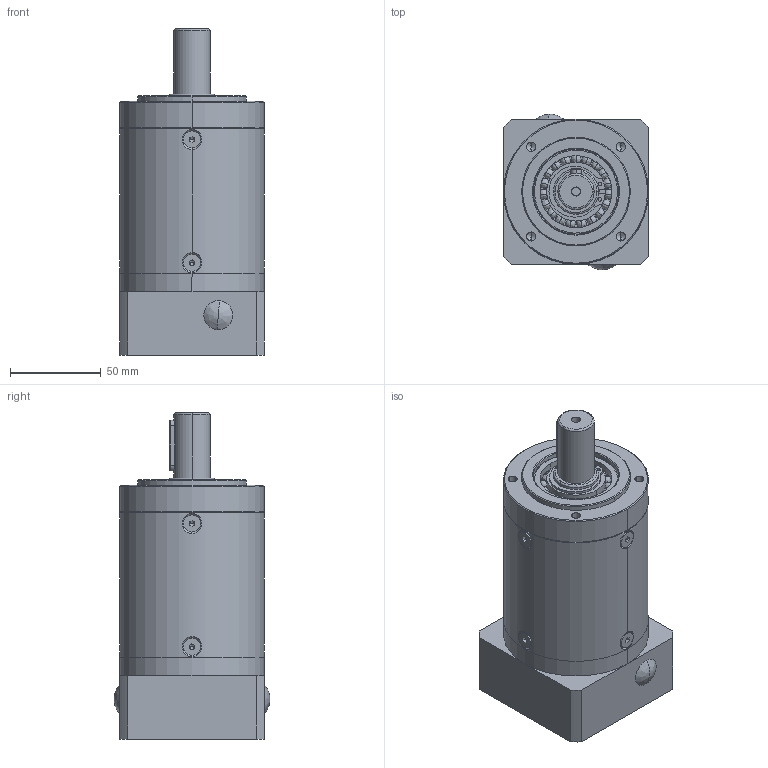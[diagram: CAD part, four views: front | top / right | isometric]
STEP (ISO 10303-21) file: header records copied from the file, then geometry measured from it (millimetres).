
FILE_DESCRIPTION (( 'STEP AP214' ), '1' );
FILE_NAME ('PL80L3-70-19-M5.STEP', '2020-09-12T05:43:19', ( '微软用户' ), ( '微软中国' ), 'SwSTEP 2.0', 'SolidWorks 2014', '' );
FILE_SCHEMA (( 'AUTOMOTIVE_DESIGN' ));
Length unit declared in the file: millimetre
Products named in the file (118): 俴陎謫I3; 怮栠謫I5; Circlips for hole--Type B GB_GB_CONNECTING_PIECE_RINGS_CHB 47; 输入端盖新; 傻俴陎粣10.347; 路燭え66X22; 酗俴陎粣5.623; 小垫片10.4X22.5X0.5; O型圈; 幗渀粣創; 幗渀粣創5.623X10.623; 堤粣傷裔; Plain parallel keys_GB_CONNECTING_PIECE_KEYS_CSK 6X28; 80俴陎謫I8; 苤菜え5.65X13.5; Hexagon socket countersunk head screws GB_GB_FASTENER_SCREWS_HSCHS M5X12-N; 俴陎殤I8; 怀堤粣I3; Circlips for shaft--Type B GB_GB_CONNECTING_PIECE_RINGS_CSB 25; 菜え22X66X0.5; 怮栠謫I3; Deep groove ball bearings GB_Rolling bearings 6005 GB 276-94; 80怮栠謫I8; 路燭え37X66; Hexagon socket head cap screws GB_GB_FASTENER_SCREWS_HSHCS M5X16-N; 三级内齿圈; 俴陎謫I5; 黑裔; 输入轴; PL80L3-70-19-M5; 俴陎殤I5
Assembly tree (87 placements, depth 2):
  俴陎謫I3
  Circlips for hole--Type B GB_GB_CONNECTING_PIECE_RINGS_CHB 47
  傻俴陎粣10.347
  路燭え66X22
  酗俴陎粣5.623
Bounding box: 80 x 86 x 180 mm (x, y, z)
Volume: 613211 mm3; surface area: 266021.5 mm2
Topology: 87 solids, 87 shells, 2355 faces, 6738 edges, 4216 vertices
Faces by surface type: cylinder 851, bspline 816, plane 389, cone 299
Entity records: 70639 total; most frequent: CARTESIAN_POINT 37723, ORIENTED_EDGE 6878, DIRECTION 5571, EDGE_CURVE 3439, VERTEX_POINT 2249, AXIS2_PLACEMENT_3D 2230, EDGE_LOOP 1388, CIRCLE 1313
